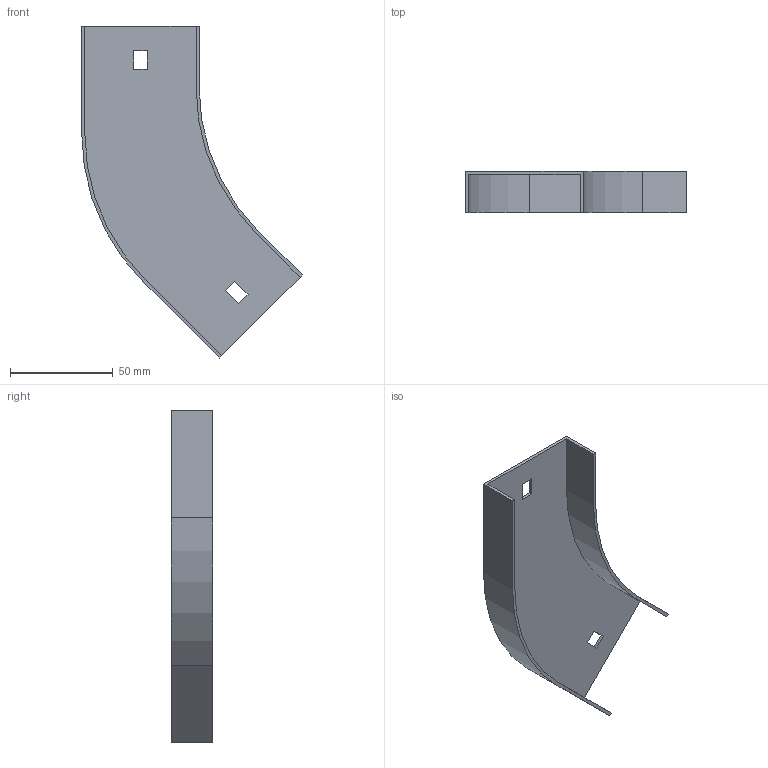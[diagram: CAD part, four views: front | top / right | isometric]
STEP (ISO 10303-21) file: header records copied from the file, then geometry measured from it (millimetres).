
FILE_DESCRIPTION (( 'STEP AP214' ), '1' );
FILE_NAME ('11G1P050.step', '2025-02-21T12:45:42', ( '' ), ( '' ), 'SwSTEP 2.0', 'SolidWorks 2023', '' );
FILE_SCHEMA (( 'AUTOMOTIVE_DESIGN' ));
Length unit declared in the file: millimetre
Products named in the file (1): 11G1P050
Bounding box: 107.06 x 20 x 161.17 mm (x, y, z)
Volume: 22861 mm3; surface area: 31339 mm2
Topology: 1 solids, 1 shells, 26 faces, 72 edges, 48 vertices
Faces by surface type: plane 22, cylinder 4
Entity records: 855 total; most frequent: CARTESIAN_POINT 147, ORIENTED_EDGE 144, DIRECTION 134, EDGE_CURVE 72, VECTOR 64, LINE 64, VERTEX_POINT 48, AXIS2_PLACEMENT_3D 35
